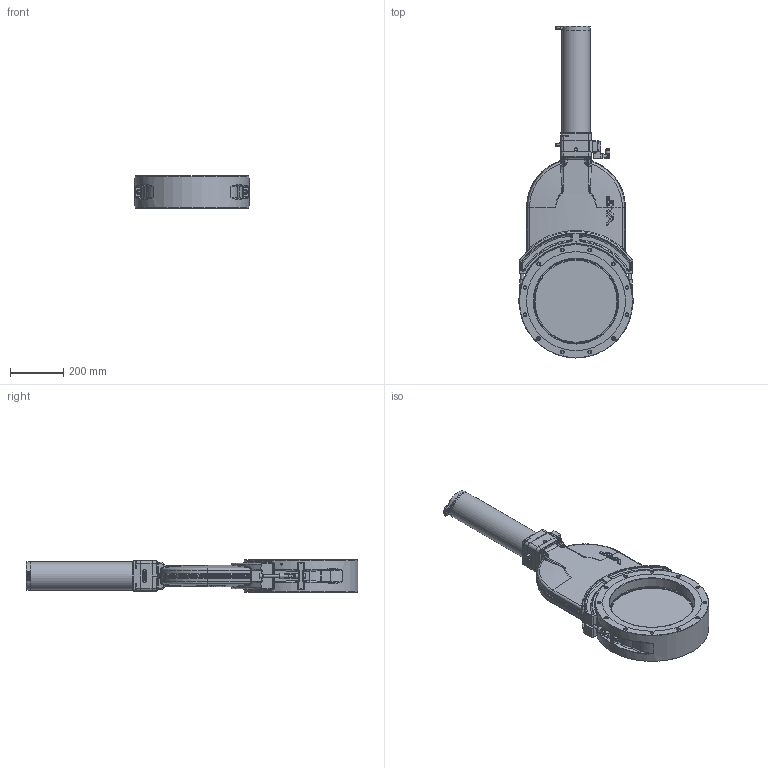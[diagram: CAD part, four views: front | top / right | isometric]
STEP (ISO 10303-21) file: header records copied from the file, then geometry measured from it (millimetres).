
FILE_DESCRIPTION(/* description */ (''),/* implementation_level */ '2;1');
FILE_NAME(/* name */ '1730209216_203.stp',/* time_stamp */ '2020-02-26T18:23:38+01:00',/* author */ (''),/* organization */ (''),/* preprocessor_version */ 'ST-DEVELOPER v16',/* originating_system */ 'SIEMENS PLM Software NX 11.0',/* authorisation */ '');
FILE_SCHEMA (('AP203_CONFIGURATION_CONTROLLED_3D_DESIGN_OF_MECHANICAL_PARTS_AND_ASSEMBLIES_MIM_LF { 1 0 10303 403 2 1 2}'));
Products named in the file (62): 228106.2; 209875.9; 209876.7; n-6013-470.1; 212188_2.1; 220724.4_27263ID; N-6121-040.1; 92838-01_1.2; 80477-01.1; N-7100-005_2.1; 80478-01.1; N-6195-007.2; 93115-01.1; 87105-01.1; 467882; 437235; 221088_3.2; 221088_1.2; N-6024-524.1; 221088_2.2; 220484.1; N-6121-019.1; 73662-01.1; 212501.2; 212199; 231509; 231512; 237906.1; N-6005-459.1; 366217; n-6024-526; 221092.3; N-5018-005.1; 300001_27345ID; 211397.2; 211398.4; N-6121-026.2; 211950.1; 211375.3; 77379-01.1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
Assembly tree (93 placements, depth 5):
  212939
    78855-r1.9_NX-ARRAGMNTMassbild, alle Innenteile unterdrueckt  x2
      N-6016-478.2
      78856-R1.3
        73662-01.1
      77379-01.1
    211400.11_NX-ARRAGMNTGelenkauge gestreckt  x2
      211375.3
      211950.1
      N-6121-026.2
      211398.4
      211397.2
    212165.1  x2
    212546.1  x4
    542873
      300001_27345ID
    222150.8_NX-ARRAGMNTZUSAMMENST1
      N-5018-005.1  x2
      220485.2
        N-6121-019.1  x6
        220484.1
      221092.3
      221088.2_NX-ARRAGMNTZUSAMMENST1
        221088_2.2
        N-6024-524.1  x5
        221088_1.2
        221088_3.2
      n-6024-526  x2
      366217  x2
      N-6005-459.1  x2
      N-8501-400.2_MODELNX-ARRAGMNTArrangement 1
        437235
        467882
    263436.24
    231536.18_NX-ARRAGMNTGESCHLOSSEN HO, Innenteile+Stange unterdrück
t
      237906.1
      87090-R1.22_NX-ARRAGMNTclose_213913 Hub 2,95mm (mit Feder)
        87105-01.1
        93115-01.1
        N-6195-007.2
        80478-01.1
        N-7100-005_2.1
        80477-01.1
        92838-01_1.2
      87090-R1.22_NX-ARRAGMNTunbetaetigt Hub 0mm (ohne Feder)
        87105-01.1
        93115-01.1
        N-6195-007.2
        80478-01.1
        N-7100-005_2.1
        80477-01.1
      220753.4
        N-6121-040.1  x2
        220724.4_27263ID
        212188_2.1
      231512
      231509
    1014008_MODELNX-ARRAGMNTverriegelt - CLOSE (O-Ringe, Kugelfuehrung un
terdrückt)
      209887.19_NX-ARRAGMNT12150-X verriegelt
        n-6013-470.1  x5
Bounding box: 427.96 x 1241.9 x 120 mm (x, y, z)
Volume: 12284124.4 mm3; surface area: 2130471.4 mm2
Topology: 85 solids, 85 shells, 3680 faces, 9144 edges, 5744 vertices
Faces by surface type: plane 1526, cylinder 807, bspline 756, cone 272, extrusion 169, torus 104, sphere 40, revolution 6
Full cylindrical faces by diameter (mm): 1 x1, 1.875 x2, 2 x3, 2.115 x8, 2.475 x6, 2.5 x8, 2.56 x2, 2.575 x2, 3 x20, 3.2 x4, 3.3 x8, 3.4 x6, 3.5 x13, 4 x4, 4.1 x2, 4.2 x3, 4.22 x1, 4.7 x4, 5 x16, 5.4 x1, 5.5 x4, 5.6 x2, 5.65 x2, 5.7 x2, 5.8 x4, 6 x24, 6.3 x2, 6.4 x4, 6.475 x2, 6.5 x1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
Entity records: 126125 total; most frequent: CARTESIAN_POINT 51145, ORIENTED_EDGE 13872, DIRECTION 11435, EDGE_CURVE 6936, VERTEX_POINT 4654, AXIS2_PLACEMENT_3D 4381, EDGE_LOOP 3857, ADVANCED_FACE 3055
